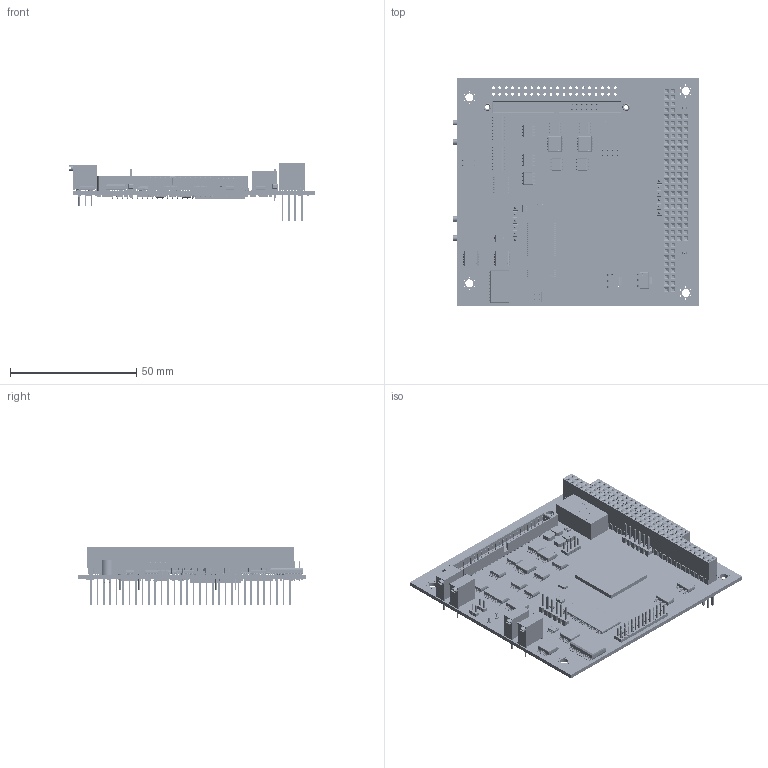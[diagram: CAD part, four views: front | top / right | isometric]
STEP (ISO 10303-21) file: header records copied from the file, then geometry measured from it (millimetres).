
FILE_DESCRIPTION(('Open CASCADE Model'),'2;1');
FILE_NAME('Open CASCADE Shape Model','2019-03-29T15:27:08',('Author'),( 'Open CASCADE'),'Open CASCADE STEP processor 6.8','Open CASCADE 6.8' ,'Unknown');
FILE_SCHEMA(('AUTOMOTIVE_DESIGN { 1 0 10303 214 1 1 1 1 }'));
Length unit declared in the file: millimetre
Products named in the file (278): PCB; Board; C35; 789487856; R57; 789509104; R56; 789518832; R55; R54; R53; 983718960; R52; R21; R91; TP2; HARWIN_H9001; TP1; U40; 1497327120; J1; m20-9990645_asm; M20-999-MOULD; M20-999-PIN; R51; R50; C42; 789516272; C41; C84; C101; J11; m80-5005042_asm; M80-2702098; M80-0200049; M80-210; Open CASCADE STEP translator 6.8 6.21.1.52.1; Open CASCADE STEP translator 6.8 6.21.1.52.2; L10; 1497322768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
Assembly tree (512 placements, depth 5):
  PCB
    Board
    C35
      789487856
    R57
      789509104
    R56
      789518832
    R55
      789518832
    R54
      789518832
    R53
      983718960
    R52
      983718960
    R21
      983718960
    R91
      789509104
    TP2
      HARWIN_H9001
    TP1
      HARWIN_H9001
    U40
      1497327120
    J1
      m20-9990645_asm
        M20-999-MOULD
        M20-999-PIN  x6
    R51
      789509104
    R50
      789509104
    C42
      789516272
    C41
      789487856
    C84
      789487856
    C101
      789516272
    J11
      m80-5005042_asm
        M80-2702098
        M80-0200049  x50
        M80-210  x2
          Open CASCADE STEP translator 6.8 6.21.1.52.1
          Open CASCADE STEP translator 6.8 6.21.1.52.2
    L10
      1497322768
    R86
      789516528
    R85
      789509104
    J9
      m22-2510246_asm
        M22-25102_MOULD
        M22-251_CONTACT  x2
    R78
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Bounding box: 97.1 x 90.17 x 23.24 mm (x, y, z)
Volume: 27987.7 mm3; surface area: 46397.4 mm2
Topology: 1113 solids, 1119 shells, 20331 faces, 49547 edges, 30916 vertices
Faces by surface type: plane 14621, cylinder 4313, sphere 766, cone 320, bspline 283, torus 28
Full cylindrical faces by diameter (mm): 0.406 x36, 0.51 x24, 0.63 x14, 0.8 x88, 0.85 x6, 0.91 x12, 0.94 x12, 1 x1, 1.016 x104, 1.11 x40, 1.202 x4, 1.29 x2, 2.2 x2, 3.18 x4
Entity records: 368986 total; most frequent: CARTESIAN_POINT 59066, ORIENTED_EDGE 51970, DIRECTION 50450, EDGE_CURVE 25987, LINE 22338, VECTOR 22338, VERTEX_POINT 16639, AXIS2_PLACEMENT_3D 14056
